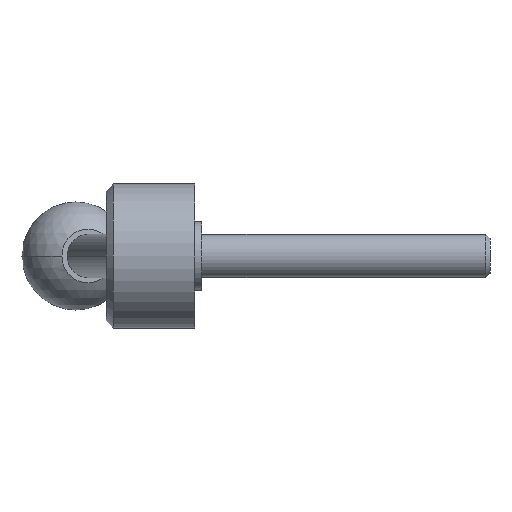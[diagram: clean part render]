
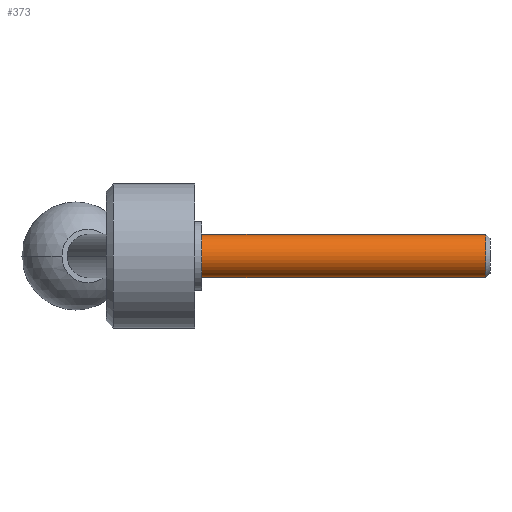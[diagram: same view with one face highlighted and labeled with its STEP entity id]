
A CAD part, left-side view. The second image highlights one B-rep face of the part: STEP entity #373.
In plain terms, the highlighted cylindrical face has radius 6 mm (diameter 12 mm), a partial arc.
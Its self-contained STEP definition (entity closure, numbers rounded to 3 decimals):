
#32 = VECTOR ( 'NONE', #602, 1000. ) ;
#43 = LINE ( 'NONE', #320, #32 ) ;
#48 = DIRECTION ( 'NONE',  ( 0., 0., -1. ) ) ;
#56 = VERTEX_POINT ( 'NONE', #235 ) ;
#94 = LINE ( 'NONE', #304, #455 ) ;
#135 = DIRECTION ( 'NONE',  ( 0., -1., 0. ) ) ;
#138 = EDGE_CURVE ( 'NONE', #648, #56, #841, .T. ) ;
#166 = EDGE_CURVE ( 'NONE', #325, #424, #501, .T. ) ;
#190 = DIRECTION ( 'NONE',  ( 0., 0., 1. ) ) ;
#232 = CARTESIAN_POINT ( 'NONE',  ( 0., -82., 0. ) ) ;
#235 = CARTESIAN_POINT ( 'NONE',  ( 0., -80.8, 6. ) ) ;
#261 = AXIS2_PLACEMENT_3D ( 'NONE', #396, #671, #48 ) ;
#304 = CARTESIAN_POINT ( 'NONE',  ( 0., -82., -6. ) ) ;
#320 = CARTESIAN_POINT ( 'NONE',  ( 0., -82., 6. ) ) ;
#325 = VERTEX_POINT ( 'NONE', #615 ) ;
#331 = ORIENTED_EDGE ( 'NONE', *, *, #138, .T. ) ;
#373 = ADVANCED_FACE ( 'NONE', ( #678 ), #549, .T. ) ;
#396 = CARTESIAN_POINT ( 'NONE',  ( 0., -80.8, 0. ) ) ;
#420 = EDGE_CURVE ( 'NONE', #56, #325, #43, .T. ) ;
#424 = VERTEX_POINT ( 'NONE', #871 ) ;
#444 = AXIS2_PLACEMENT_3D ( 'NONE', #232, #817, #190 ) ;
#455 = VECTOR ( 'NONE', #639, 1000. ) ;
#501 = CIRCLE ( 'NONE', #626, 6. ) ;
#549 = CYLINDRICAL_SURFACE ( 'NONE', #444, 6. ) ;
#552 = CARTESIAN_POINT ( 'NONE',  ( 0., -2., 0. ) ) ;
#558 = ORIENTED_EDGE ( 'NONE', *, *, #420, .T. ) ;
#590 = CARTESIAN_POINT ( 'NONE',  ( 0., -80.8, -6. ) ) ;
#602 = DIRECTION ( 'NONE',  ( 0., 1., 0. ) ) ;
#615 = CARTESIAN_POINT ( 'NONE',  ( 0., -2., 6. ) ) ;
#617 = ORIENTED_EDGE ( 'NONE', *, *, #166, .T. ) ;
#626 = AXIS2_PLACEMENT_3D ( 'NONE', #552, #135, #677 ) ;
#639 = DIRECTION ( 'NONE',  ( 0., 1., 0. ) ) ;
#644 = EDGE_CURVE ( 'NONE', #648, #424, #94, .T. ) ;
#648 = VERTEX_POINT ( 'NONE', #590 ) ;
#671 = DIRECTION ( 'NONE',  ( 0., 1., 0. ) ) ;
#677 = DIRECTION ( 'NONE',  ( 0., 0., -1. ) ) ;
#678 = FACE_OUTER_BOUND ( 'NONE', #745, .T. ) ;
#690 = ORIENTED_EDGE ( 'NONE', *, *, #644, .F. ) ;
#745 = EDGE_LOOP ( 'NONE', ( #690, #331, #558, #617 ) ) ;
#817 = DIRECTION ( 'NONE',  ( 0., 1., 0. ) ) ;
#841 = CIRCLE ( 'NONE', #261, 6. ) ;
#871 = CARTESIAN_POINT ( 'NONE',  ( 0., -2., -6. ) ) ;
